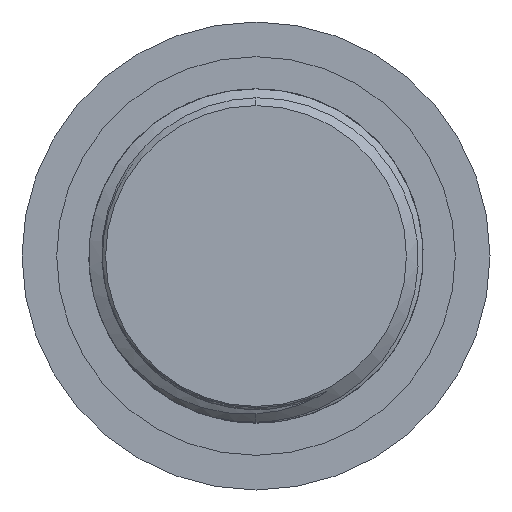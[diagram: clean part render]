
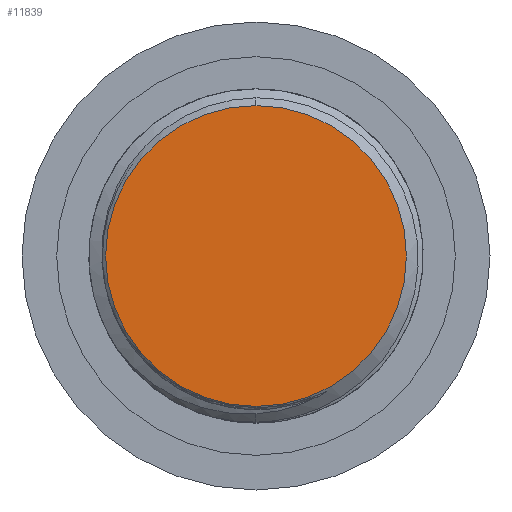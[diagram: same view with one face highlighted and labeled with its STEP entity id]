
A CAD part, left-side view. The second image highlights one B-rep face of the part: STEP entity #11839.
In plain terms, the highlighted planar face has unit normal (-1, 0, 0).
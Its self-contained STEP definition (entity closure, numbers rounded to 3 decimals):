
#624 = VERTEX_POINT ( 'NONE', #5104 ) ;
#1135 = EDGE_CURVE ( 'NONE', #1627, #624, #1723, .T. ) ;
#1627 = VERTEX_POINT ( 'NONE', #2253 ) ;
#1723 = CIRCLE ( 'NONE', #10046, 9. ) ;
#2253 = CARTESIAN_POINT ( 'NONE',  ( -48.95, 0., 9. ) ) ;
#2393 = AXIS2_PLACEMENT_3D ( 'NONE', #7752, #11005, #2795 ) ;
#2795 = DIRECTION ( 'NONE',  ( 0., 0., 1. ) ) ;
#3149 = EDGE_LOOP ( 'NONE', ( #5320, #15081 ) ) ;
#5104 = CARTESIAN_POINT ( 'NONE',  ( -48.95, 0., -9. ) ) ;
#5320 = ORIENTED_EDGE ( 'NONE', *, *, #9581, .F. ) ;
#6170 = FACE_OUTER_BOUND ( 'NONE', #3149, .T. ) ;
#7392 = CARTESIAN_POINT ( 'NONE',  ( -48.95, 0., 0. ) ) ;
#7752 = CARTESIAN_POINT ( 'NONE',  ( -48.95, 9., 0. ) ) ;
#8416 = DIRECTION ( 'NONE',  ( 0., 0., -1. ) ) ;
#8464 = DIRECTION ( 'NONE',  ( 0., 0., -1. ) ) ;
#9581 = EDGE_CURVE ( 'NONE', #624, #1627, #13143, .T. ) ;
#10046 = AXIS2_PLACEMENT_3D ( 'NONE', #11712, #13015, #8416 ) ;
#11005 = DIRECTION ( 'NONE',  ( -1., 0., 0. ) ) ;
#11712 = CARTESIAN_POINT ( 'NONE',  ( -48.95, 0., 0. ) ) ;
#11839 = ADVANCED_FACE ( 'NONE', ( #6170 ), #11997, .T. ) ;
#11997 = PLANE ( 'NONE',  #2393 ) ;
#13015 = DIRECTION ( 'NONE',  ( 1., 0., 0. ) ) ;
#13139 = DIRECTION ( 'NONE',  ( 1., 0., 0. ) ) ;
#13143 = CIRCLE ( 'NONE', #13627, 9. ) ;
#13627 = AXIS2_PLACEMENT_3D ( 'NONE', #7392, #13139, #8464 ) ;
#15081 = ORIENTED_EDGE ( 'NONE', *, *, #1135, .F. ) ;
